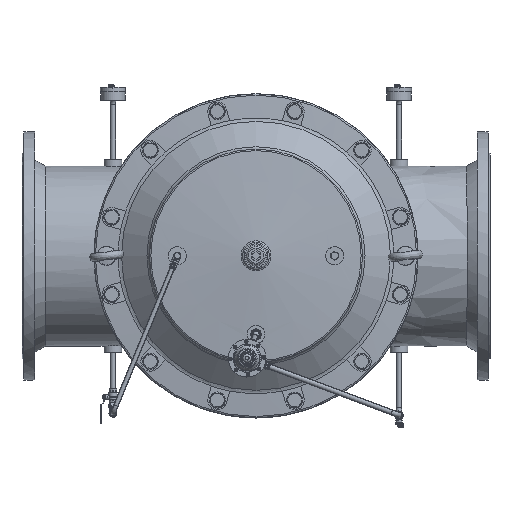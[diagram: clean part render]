
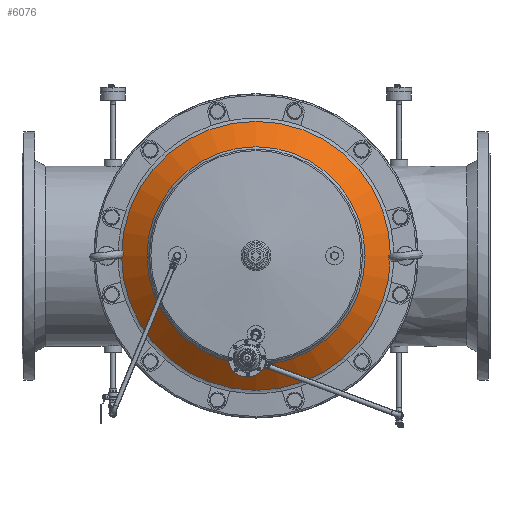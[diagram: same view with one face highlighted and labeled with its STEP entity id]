
A CAD part, top view. The second image highlights one B-rep face of the part: STEP entity #6076.
In plain terms, the highlighted conical face has half-angle 51.976 degrees and reference radius 254.963 mm.
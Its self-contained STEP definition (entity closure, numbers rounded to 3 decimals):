
#6076=ADVANCED_FACE('',(#19895,#19897),#19899,.T.);
#19895=FACE_OUTER_BOUND('',#19896,.T.);
#19896=EDGE_LOOP('',(#44476));
#19897=FACE_OUTER_BOUND('',#19898,.T.);
#19898=EDGE_LOOP('',(#44477));
#19899=CONICAL_SURFACE('',#19900,254.963,0.907);
#19900=AXIS2_PLACEMENT_3D('',#19901,#19902,#19903);
#19901=CARTESIAN_POINT('',(0.,-41.285,0.));
#19902=DIRECTION('',(0.,1.,0.));
#19903=DIRECTION('',(-1.,0.,0.));
#44476=ORIENTED_EDGE('',*,*,#51630,.F.);
#44477=ORIENTED_EDGE('',*,*,#51612,.F.);
#51612=EDGE_CURVE('',#56906,#56906,#56907,.T.);
#51630=EDGE_CURVE('',#56942,#56942,#56943,.F.);
#56906=VERTEX_POINT('',#83656);
#56907=CIRCLE('',#83657,228.338);
#56942=VERTEX_POINT('',#83746);
#56943=CIRCLE('',#83747,281.588);
#83656=CARTESIAN_POINT('',(228.338,-62.105,0.));
#83657=AXIS2_PLACEMENT_3D('',#83658,#83659,#83660);
#83658=CARTESIAN_POINT('',(0.,-62.105,0.));
#83659=DIRECTION('',(0.,-1.,0.));
#83660=DIRECTION('',(1.,0.,0.));
#83746=CARTESIAN_POINT('',(281.588,-20.465,0.));
#83747=AXIS2_PLACEMENT_3D('',#83748,#83749,#83750);
#83748=CARTESIAN_POINT('',(0.,-20.465,0.));
#83749=DIRECTION('',(0.,-1.,0.));
#83750=DIRECTION('',(1.,0.,0.));
